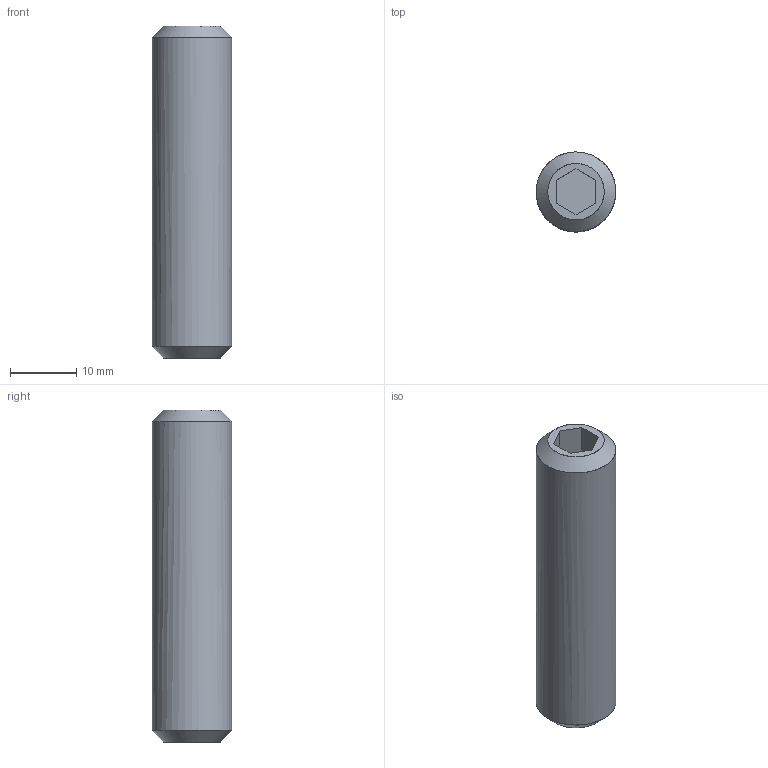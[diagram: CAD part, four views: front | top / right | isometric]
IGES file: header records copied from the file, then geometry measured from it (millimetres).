
Global section: file name: E:\UnigraphicsGraphicData\MISUMI_MOLD-PARTS\NX\3d_ai12_00906_r00.igs; native system: NX V5.0; preprocessor: UGS NX IGES V5.0; author: MISUMI; date: 20101115.182440; units: millimetre
Bounding box: 12 x 12 x 50 mm (x, y, z)
Surface area: 2279.4 mm2 (no closed solid volume)
Topology: 0 solids, 0 shells, 19 faces, 101 edges, 96 vertices
Faces by surface type: bspline 19
